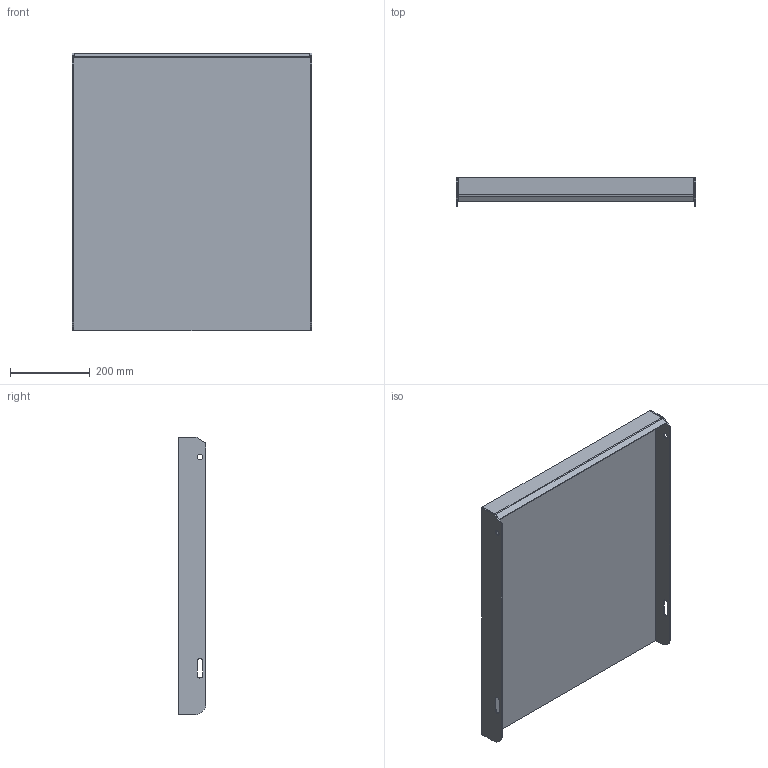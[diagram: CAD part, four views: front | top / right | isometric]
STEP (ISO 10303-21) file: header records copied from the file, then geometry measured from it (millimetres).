
FILE_DESCRIPTION (( 'STEP AP203' ), '1' );
FILE_NAME ('148806071, Plan TH6, 600x700, vfz.STEP', '2020-10-21T13:30:15', ( '' ), ( '' ), 'SwSTEP 2.0', 'SolidWorks 2019', '' );
FILE_SCHEMA (( 'CONFIG_CONTROL_DESIGN' ));
Length unit declared in the file: millimetre
Products named in the file (4): 148806071, Plan TH6, 600x700, vfz; SW0000041386; SW0000041827; SW0000041477
Assembly tree (4 placements, depth 2):
  148806071, Plan TH6, 600x700, vfz
    SW0000041827
    SW0000041386  x2
    SW0000041477
Bounding box: 600 x 70 x 697 mm (x, y, z)
Volume: 8635133.4 mm3; surface area: 1151939.9 mm2
Topology: 4 solids, 4 shells, 59 faces, 142 edges, 92 vertices
Faces by surface type: plane 45, cylinder 14
Entity records: 1693 total; most frequent: DIRECTION 221, CARTESIAN_POINT 220, ORIENTED_EDGE 206, EDGE_CURVE 103, VECTOR 87, LINE 87, AXIS2_PLACEMENT_3D 67, VERTEX_POINT 66
